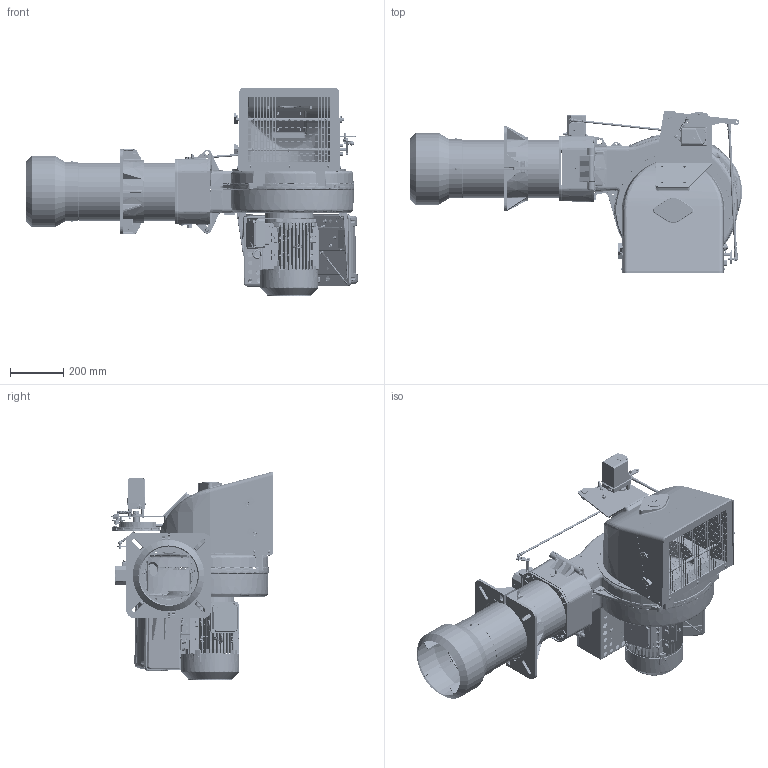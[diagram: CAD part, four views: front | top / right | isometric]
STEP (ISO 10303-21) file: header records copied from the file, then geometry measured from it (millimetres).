
FILE_DESCRIPTION (( 'STEP AP214' ), '1' );
FILE_NAME ('17790010-118931.STEP', '2017-09-21T13:49:50', ( '' ), ( '' ), 'SwSTEP 2.0', 'SolidWorks 2016', '' );
FILE_SCHEMA (( 'AUTOMOTIVE_DESIGN' ));
Length unit declared in the file: millimetre
Products named in the file (1): 17790010-118931
Bounding box: 1252.33 x 614.4 x 785.3 mm (x, y, z)
Surface area: 4825597.7 mm2 (no closed solid volume)
Topology: 0 solids, 438 shells, 5380 faces, 25355 edges, 19602 vertices
Faces by surface type: plane 2927, cylinder 1256, bspline 856, cone 249, torus 57, sphere 35
Full cylindrical faces by diameter (mm): 1.2 x1, 2.5 x1, 3.3 x2, 3.7 x5, 3.8 x1, 3.95 x1, 4.2 x1, 4.5 x4, 4.8 x2, 5 x16, 5.4 x2, 5.5 x1, 5.7 x1, 5.857 x1, 6 x9, 6.002 x1, 6.2 x2, 6.5 x2, 6.647 x1, 6.8 x4, 7 x8, 8 x22, 8.002 x3, 8.5 x10, 9 x2, 9.3 x1, 9.5 x20, 10 x13, 12 x4, 13 x6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
Entity records: 441467 total; most frequent: CARTESIAN_POINT 237680, ORIENTED_EDGE 33533, DIRECTION 26253, EDGE_CURVE 24781, VERTEX_POINT 19448, LINE 11959, VECTOR 11959, B_SPLINE_CURVE_WITH_KNOTS 9845
